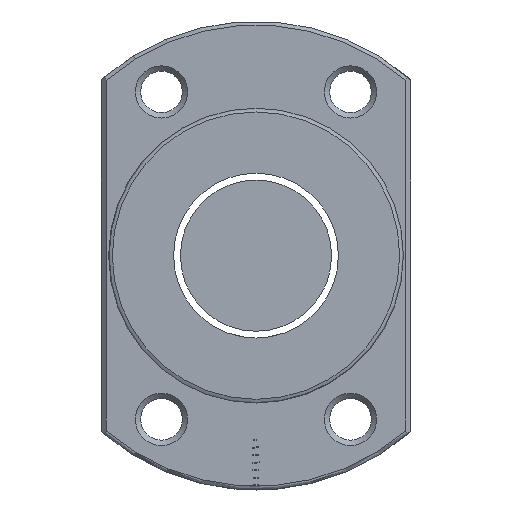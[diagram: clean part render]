
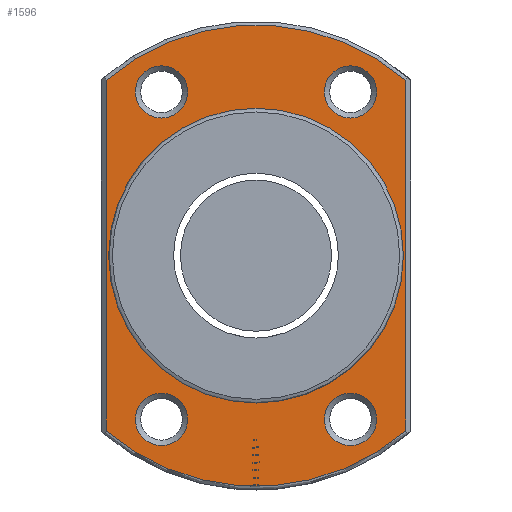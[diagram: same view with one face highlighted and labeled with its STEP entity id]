
A CAD part, left-side view. The second image highlights one B-rep face of the part: STEP entity #1596.
In plain terms, the highlighted planar face has unit normal (-1, 0, 0).
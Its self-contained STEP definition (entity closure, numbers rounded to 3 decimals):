
#33 = VECTOR ( 'NONE', #1608, 1000. ) ;
#80 = ORIENTED_EDGE ( 'NONE', *, *, #488, .T. ) ;
#202 = CARTESIAN_POINT ( 'NONE',  ( -59., 12.5, -21.651 ) ) ;
#219 = DIRECTION ( 'NONE',  ( 0., 0., -1. ) ) ;
#329 = CIRCLE ( 'NONE', #1364, 3.45 ) ;
#375 = VECTOR ( 'NONE', #2927, 1000. ) ;
#392 = DIRECTION ( 'NONE',  ( 0., 0., 1. ) ) ;
#403 = CARTESIAN_POINT ( 'NONE',  ( -59., 0., 0. ) ) ;
#416 = CARTESIAN_POINT ( 'NONE',  ( -59., -12.5, -18.201 ) ) ;
#422 = PLANE ( 'NONE',  #817 ) ;
#425 = CIRCLE ( 'NONE', #2349, 3.45 ) ;
#438 = EDGE_LOOP ( 'NONE', ( #1886 ) ) ;
#488 = EDGE_CURVE ( 'NONE', #1574, #1574, #2155, .T. ) ;
#496 = CARTESIAN_POINT ( 'NONE',  ( -59., 12.5, 25.101 ) ) ;
#518 = ORIENTED_EDGE ( 'NONE', *, *, #2892, .T. ) ;
#573 = AXIS2_PLACEMENT_3D ( 'NONE', #1870, #695, #1197 ) ;
#593 = DIRECTION ( 'NONE',  ( -1., 0., 0. ) ) ;
#613 = DIRECTION ( 'NONE',  ( 1., 0., 0. ) ) ;
#617 = CARTESIAN_POINT ( 'NONE',  ( -59., 31., 0. ) ) ;
#645 = CARTESIAN_POINT ( 'NONE',  ( -59., -12.5, 21.651 ) ) ;
#648 = FACE_BOUND ( 'NONE', #1170, .T. ) ;
#658 = CARTESIAN_POINT ( 'NONE',  ( -59., 12.5, -18.201 ) ) ;
#660 = CARTESIAN_POINT ( 'NONE',  ( -59., 19.8, 0. ) ) ;
#680 = ORIENTED_EDGE ( 'NONE', *, *, #2670, .T. ) ;
#684 = EDGE_CURVE ( 'NONE', #1434, #2352, #2695, .T. ) ;
#686 = EDGE_CURVE ( 'NONE', #1085, #1085, #425, .T. ) ;
#695 = DIRECTION ( 'NONE',  ( 1., 0., 0. ) ) ;
#817 = AXIS2_PLACEMENT_3D ( 'NONE', #617, #1362, #392 ) ;
#820 = VERTEX_POINT ( 'NONE', #1936 ) ;
#935 = CARTESIAN_POINT ( 'NONE',  ( -59., 0., -19.5 ) ) ;
#1071 = FACE_BOUND ( 'NONE', #2222, .T. ) ;
#1085 = VERTEX_POINT ( 'NONE', #658 ) ;
#1100 = CARTESIAN_POINT ( 'NONE',  ( -59., 12.5, 21.651 ) ) ;
#1170 = EDGE_LOOP ( 'NONE', ( #680 ) ) ;
#1197 = DIRECTION ( 'NONE',  ( 0., 0., 1. ) ) ;
#1221 = VERTEX_POINT ( 'NONE', #2189 ) ;
#1294 = CARTESIAN_POINT ( 'NONE',  ( -59., -19.8, 0. ) ) ;
#1306 = DIRECTION ( 'NONE',  ( 0., 0., 1. ) ) ;
#1346 = CARTESIAN_POINT ( 'NONE',  ( -59., 19.8, -23.199 ) ) ;
#1362 = DIRECTION ( 'NONE',  ( -1., 0., 0. ) ) ;
#1364 = AXIS2_PLACEMENT_3D ( 'NONE', #645, #613, #2267 ) ;
#1375 = DIRECTION ( 'NONE',  ( 0., 0., 1. ) ) ;
#1434 = VERTEX_POINT ( 'NONE', #1346 ) ;
#1461 = VERTEX_POINT ( 'NONE', #496 ) ;
#1494 = ORIENTED_EDGE ( 'NONE', *, *, #686, .T. ) ;
#1501 = CIRCLE ( 'NONE', #1903, 30.5 ) ;
#1535 = DIRECTION ( 'NONE',  ( 0., 0., 1. ) ) ;
#1542 = EDGE_LOOP ( 'NONE', ( #2167, #2828, #2639, #2702 ) ) ;
#1574 = VERTEX_POINT ( 'NONE', #416 ) ;
#1595 = FACE_BOUND ( 'NONE', #1728, .T. ) ;
#1596 = ADVANCED_FACE ( 'NONE', ( #1810, #648, #1071, #1595, #2022, #2960 ), #422, .T. ) ;
#1608 = DIRECTION ( 'NONE',  ( 0., 0., -1. ) ) ;
#1632 = VERTEX_POINT ( 'NONE', #2635 ) ;
#1663 = AXIS2_PLACEMENT_3D ( 'NONE', #1819, #2263, #2066 ) ;
#1703 = CIRCLE ( 'NONE', #2153, 3.45 ) ;
#1726 = CARTESIAN_POINT ( 'NONE',  ( -59., -19.8, -23.199 ) ) ;
#1728 = EDGE_LOOP ( 'NONE', ( #1494 ) ) ;
#1810 = FACE_BOUND ( 'NONE', #2130, .T. ) ;
#1819 = CARTESIAN_POINT ( 'NONE',  ( -59., 0., 0. ) ) ;
#1848 = DIRECTION ( 'NONE',  ( 1., 0., 0. ) ) ;
#1870 = CARTESIAN_POINT ( 'NONE',  ( -59., -12.5, -21.651 ) ) ;
#1886 = ORIENTED_EDGE ( 'NONE', *, *, #2554, .T. ) ;
#1903 = AXIS2_PLACEMENT_3D ( 'NONE', #2472, #593, #1535 ) ;
#1915 = EDGE_CURVE ( 'NONE', #1221, #820, #1501, .T. ) ;
#1936 = CARTESIAN_POINT ( 'NONE',  ( -59., 19.8, 23.199 ) ) ;
#2022 = FACE_BOUND ( 'NONE', #438, .T. ) ;
#2066 = DIRECTION ( 'NONE',  ( 0., 0., 1. ) ) ;
#2083 = DIRECTION ( 'NONE',  ( 1., 0., 0. ) ) ;
#2100 = CIRCLE ( 'NONE', #2840, 19.5 ) ;
#2130 = EDGE_LOOP ( 'NONE', ( #80 ) ) ;
#2153 = AXIS2_PLACEMENT_3D ( 'NONE', #1100, #2083, #1375 ) ;
#2155 = CIRCLE ( 'NONE', #573, 3.45 ) ;
#2167 = ORIENTED_EDGE ( 'NONE', *, *, #2726, .T. ) ;
#2189 = CARTESIAN_POINT ( 'NONE',  ( -59., -19.8, 23.199 ) ) ;
#2222 = EDGE_LOOP ( 'NONE', ( #518 ) ) ;
#2251 = LINE ( 'NONE', #1294, #375 ) ;
#2263 = DIRECTION ( 'NONE',  ( -1., 0., 0. ) ) ;
#2267 = DIRECTION ( 'NONE',  ( 0., 0., 1. ) ) ;
#2349 = AXIS2_PLACEMENT_3D ( 'NONE', #202, #1848, #1306 ) ;
#2352 = VERTEX_POINT ( 'NONE', #1726 ) ;
#2472 = CARTESIAN_POINT ( 'NONE',  ( -59., 0., 0. ) ) ;
#2499 = LINE ( 'NONE', #660, #33 ) ;
#2511 = EDGE_CURVE ( 'NONE', #2352, #1221, #2251, .T. ) ;
#2554 = EDGE_CURVE ( 'NONE', #2851, #2851, #2100, .T. ) ;
#2635 = CARTESIAN_POINT ( 'NONE',  ( -59., -12.5, 25.101 ) ) ;
#2639 = ORIENTED_EDGE ( 'NONE', *, *, #2511, .T. ) ;
#2670 = EDGE_CURVE ( 'NONE', #1632, #1632, #329, .T. ) ;
#2695 = CIRCLE ( 'NONE', #1663, 30.5 ) ;
#2702 = ORIENTED_EDGE ( 'NONE', *, *, #1915, .T. ) ;
#2726 = EDGE_CURVE ( 'NONE', #820, #1434, #2499, .T. ) ;
#2779 = DIRECTION ( 'NONE',  ( 1., 0., 0. ) ) ;
#2828 = ORIENTED_EDGE ( 'NONE', *, *, #684, .T. ) ;
#2840 = AXIS2_PLACEMENT_3D ( 'NONE', #403, #2779, #219 ) ;
#2851 = VERTEX_POINT ( 'NONE', #935 ) ;
#2892 = EDGE_CURVE ( 'NONE', #1461, #1461, #1703, .T. ) ;
#2927 = DIRECTION ( 'NONE',  ( 0., 0., 1. ) ) ;
#2960 = FACE_OUTER_BOUND ( 'NONE', #1542, .T. ) ;
